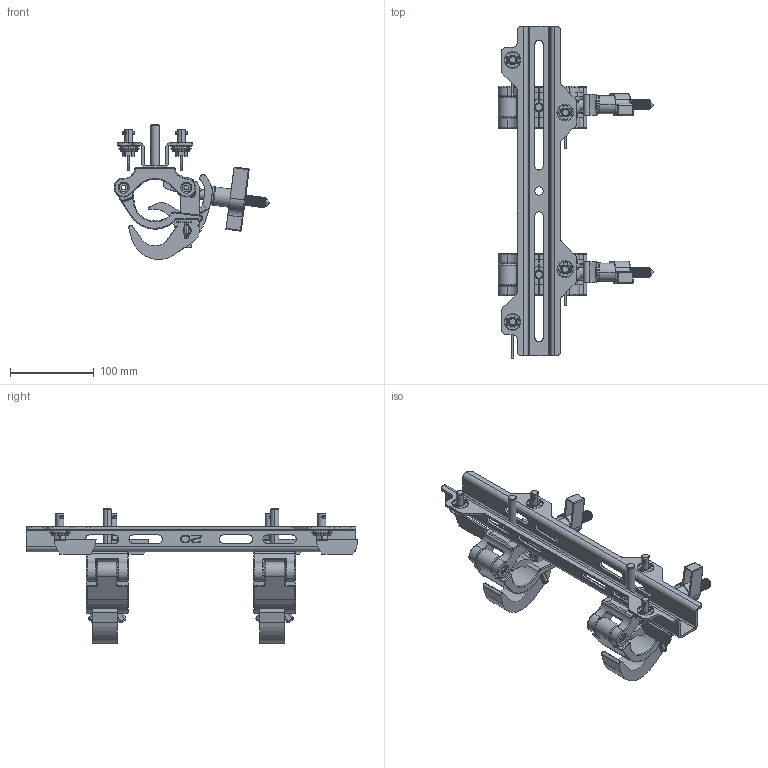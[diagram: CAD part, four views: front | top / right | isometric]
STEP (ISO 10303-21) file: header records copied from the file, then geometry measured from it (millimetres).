
FILE_DESCRIPTION((''),'2;1');
FILE_NAME('GLP-20042_ASM','2023-11-15T14:15:53',('MichaelSpatz'),(''),'CREO PARAMETRIC BY PTC INC, 2023073','CREO PARAMETRIC BY PTC INC, 2023073','');
FILE_SCHEMA(('AUTOMOTIVE_DESIGN { 1 0 10303 214 1 1 1 1 }'));
Length unit declared in the file: millimetre
Products named in the file (17): GLP-10241; GLP-10240; GLP-10219; GLP-10218; GLP-10217; GLP-10216; GLP-10215; GLP-20036_ASM; GLP-10214; GLP-10213; GLP-20037_ASM; GLP-11347; GLP-10014; GLP-10012; GLP-20356_ASM; GLP-10538; GLP-20042_ASM
Assembly tree (27 placements, depth 4):
  GLP-20042_ASM
    GLP-10241
    GLP-10240  x4
    GLP-20037_ASM  x2
      GLP-10219
      GLP-10218
      GLP-20036_ASM
        GLP-10217
        GLP-10216
        GLP-10215
      GLP-10214
      GLP-10213
    GLP-20356_ASM  x4
      GLP-11347
      GLP-10014
      GLP-10012
    GLP-10538  x2
Bounding box: 185.96 x 396.57 x 161.01 mm (x, y, z)
Volume: 636731.6 mm3; surface area: 321061.9 mm2
Topology: 51 solids, 77 shells, 2065 faces, 5421 edges, 3520 vertices
Faces by surface type: revolution 524, cylinder 506, plane 404, bspline 308, torus 132, cone 104, sphere 60, extrusion 27
Entity records: 46777 total; most frequent: CARTESIAN_POINT 12990, ORIENTED_EDGE 4743, DIRECTION 4465, EDGE_CURVE 2528, PRESENTATION_STYLE_ASSIGNMENT 1731, STYLED_ITEM 1729, VERTEX_POINT 1614, AXIS2_PLACEMENT_3D 1539
